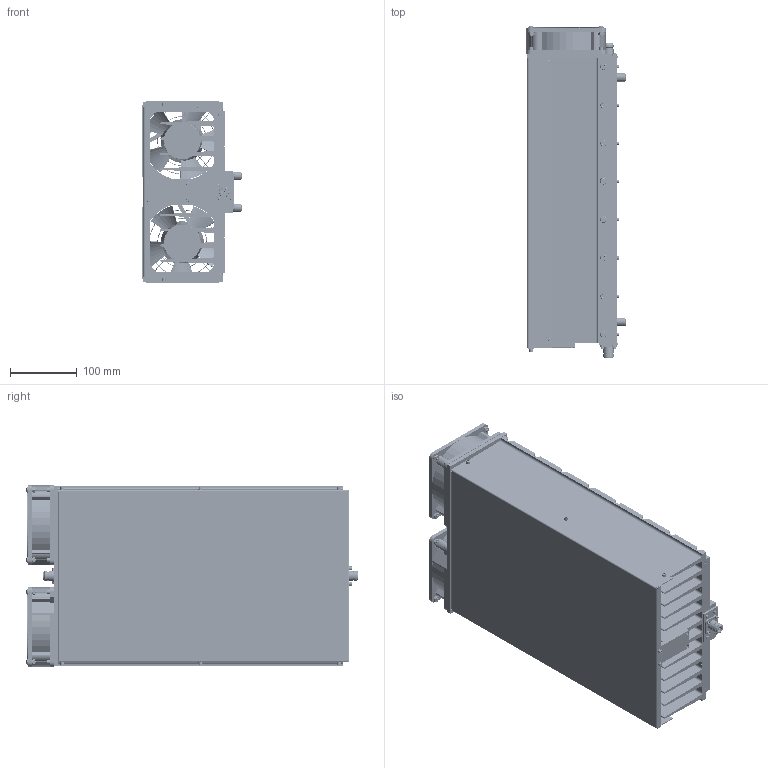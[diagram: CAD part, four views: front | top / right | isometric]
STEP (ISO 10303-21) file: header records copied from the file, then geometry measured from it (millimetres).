
FILE_DESCRIPTION(/* description */ ('Unknown'),/* implementation_level */ '2;1');
FILE_NAME(/* name */ '1500-WA-FFN-XX',/* time_stamp */ '2019-01-25T10:06:28-05:00',/* author */ ('Unknown'),/* organization */ ('Unknown'),/* preprocessor_version */ 'ST-DEVELOPER v16.7',/* originating_system */ 'DEX',/* authorisation */ $);
FILE_SCHEMA (('AUTOMOTIVE_DESIGN {1 0 10303 214 3 1 1}'));
Products named in the file (1): 1500-WA-FFN-XX
Bounding box: 148.2 x 496.35 x 271.5 mm (x, y, z)
Surface area: 1649960.2 mm2
Topology: 100 solids, 101 shells, 3684 faces, 8827 edges, 5608 vertices
Faces by surface type: plane 2101, cylinder 831, cone 585, torus 135, bspline 24, sphere 8
Full cylindrical faces by diameter (mm): 2 x1, 2.156 x76, 2.647 x14, 2.845 x35, 3.175 x37, 3.505 x24, 3.611 x2, 3.658 x2, 3.81 x8, 4.093 x8, 4.137 x8, 4.166 x32, 4.191 x4, 4.216 x4, 4.3 x16, 4.648 x35, 4.75 x16, 4.775 x4, 4.976 x24, 5.7 x1, 5.74 x18, 5.944 x10, 6.35 x20, 6.756 x8, 6.993 x2, 7.079 x1, 7.137 x16, 8.128 x2, 9.347 x3, 9.423 x2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
Entity records: 131434 total; most frequent: CARTESIAN_POINT 24721, DIRECTION 17047, ORIENTED_EDGE 15148, EDGE_CURVE 7574, AXIS2_PLACEMENT_3D 6506, VERTEX_POINT 5246, FACE_BOUND 5104, EDGE_LOOP 5020
